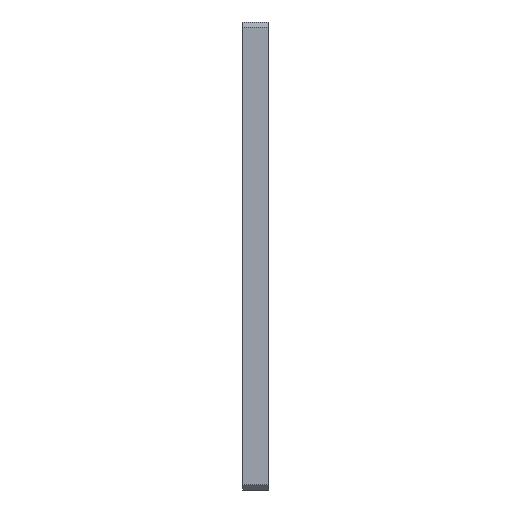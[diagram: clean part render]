
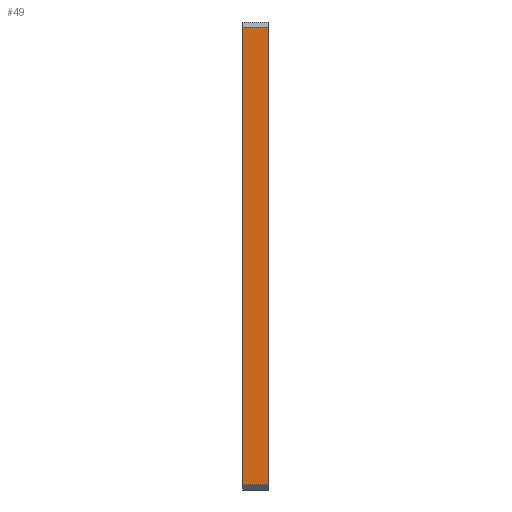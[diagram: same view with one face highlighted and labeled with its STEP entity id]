
A CAD part, left-side view. The second image highlights one B-rep face of the part: STEP entity #49.
In plain terms, the highlighted planar face has unit normal (-1, 0, 0).
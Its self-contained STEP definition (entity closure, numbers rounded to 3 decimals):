
#15 = CARTESIAN_POINT ( 'NONE',  ( -45., 0., -44. ) ) ;
#49 = ADVANCED_FACE ( 'NONE', ( #74 ), #261, .F. ) ;
#64 = VERTEX_POINT ( 'NONE', #15 ) ;
#74 = FACE_OUTER_BOUND ( 'NONE', #255, .T. ) ;
#97 = DIRECTION ( 'NONE',  ( 1., 0., 0. ) ) ;
#121 = LINE ( 'NONE', #1009, #553 ) ;
#126 = VECTOR ( 'NONE', #647, 1000. ) ;
#132 = DIRECTION ( 'NONE',  ( 0., 0., 1. ) ) ;
#158 = DIRECTION ( 'NONE',  ( 0., -1., 0. ) ) ;
#177 = ORIENTED_EDGE ( 'NONE', *, *, #1052, .T. ) ;
#211 = LINE ( 'NONE', #860, #830 ) ;
#224 = EDGE_CURVE ( 'NONE', #64, #1023, #121, .T. ) ;
#255 = EDGE_LOOP ( 'NONE', ( #792, #177, #514, #463 ) ) ;
#261 = PLANE ( 'NONE',  #810 ) ;
#366 = CARTESIAN_POINT ( 'NONE',  ( -45., 5., 44. ) ) ;
#437 = DIRECTION ( 'NONE',  ( 0., 0., -1. ) ) ;
#463 = ORIENTED_EDGE ( 'NONE', *, *, #919, .T. ) ;
#502 = VERTEX_POINT ( 'NONE', #366 ) ;
#514 = ORIENTED_EDGE ( 'NONE', *, *, #224, .T. ) ;
#553 = VECTOR ( 'NONE', #676, 1000. ) ;
#556 = CARTESIAN_POINT ( 'NONE',  ( -45., 0., 44. ) ) ;
#599 = CARTESIAN_POINT ( 'NONE',  ( -45., 5., -44. ) ) ;
#627 = VERTEX_POINT ( 'NONE', #599 ) ;
#647 = DIRECTION ( 'NONE',  ( 0., 1., 0. ) ) ;
#676 = DIRECTION ( 'NONE',  ( 0., 0., 1. ) ) ;
#782 = LINE ( 'NONE', #889, #1018 ) ;
#786 = LINE ( 'NONE', #877, #126 ) ;
#792 = ORIENTED_EDGE ( 'NONE', *, *, #916, .F. ) ;
#810 = AXIS2_PLACEMENT_3D ( 'NONE', #836, #97, #437 ) ;
#830 = VECTOR ( 'NONE', #132, 1000. ) ;
#836 = CARTESIAN_POINT ( 'NONE',  ( -45., 5., 45. ) ) ;
#860 = CARTESIAN_POINT ( 'NONE',  ( -45., 5., 45. ) ) ;
#877 = CARTESIAN_POINT ( 'NONE',  ( -45., 5., 44. ) ) ;
#889 = CARTESIAN_POINT ( 'NONE',  ( -45., 5., -44. ) ) ;
#916 = EDGE_CURVE ( 'NONE', #627, #502, #211, .T. ) ;
#919 = EDGE_CURVE ( 'NONE', #1023, #502, #786, .T. ) ;
#1009 = CARTESIAN_POINT ( 'NONE',  ( -45., 0., 45. ) ) ;
#1018 = VECTOR ( 'NONE', #158, 1000. ) ;
#1023 = VERTEX_POINT ( 'NONE', #556 ) ;
#1052 = EDGE_CURVE ( 'NONE', #627, #64, #782, .T. ) ;
